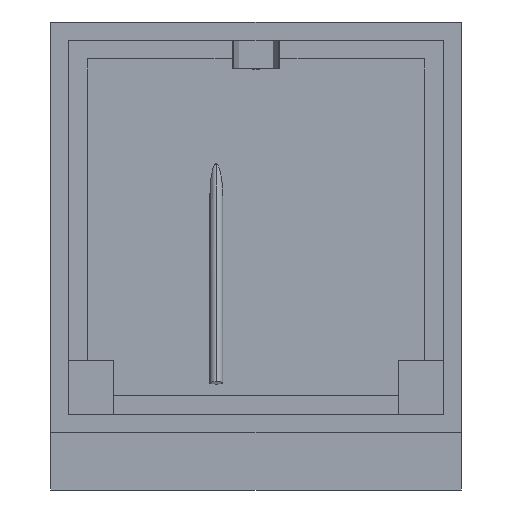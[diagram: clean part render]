
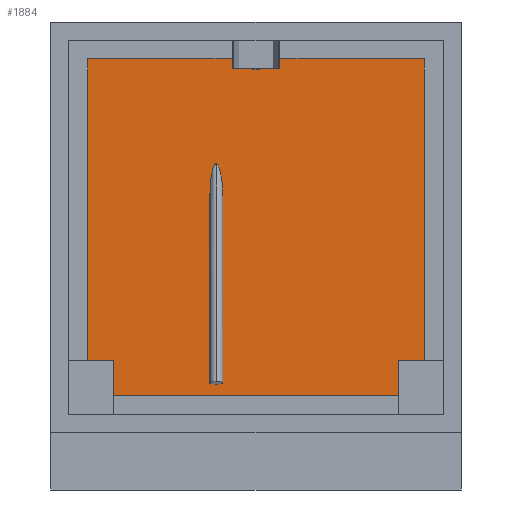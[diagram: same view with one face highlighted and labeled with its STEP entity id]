
A CAD part, front view. The second image highlights one B-rep face of the part: STEP entity #1884.
In plain terms, the highlighted planar face has unit normal (0, -1, 0).
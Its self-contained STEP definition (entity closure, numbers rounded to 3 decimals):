
#304=DIRECTION('',(0.,0.,-1.));
#305=VECTOR('',#304,75.);
#306=CARTESIAN_POINT('',(-305.,-106.,-285.));
#307=LINE('',#306,#305);
#380=DIRECTION('',(-1.,0.,0.));
#381=VECTOR('',#380,55.);
#382=CARTESIAN_POINT('',(-305.,-106.,-285.));
#383=LINE('',#382,#381);
#400=CARTESIAN_POINT('',(0.,-106.,365.));
#401=DIRECTION('',(0.,1.,0.));
#402=DIRECTION('',(0.984,0.,-0.179));
#403=AXIS2_PLACEMENT_3D('',#400,#401,#402);
#405=DIRECTION('',(-1.,0.,0.));
#406=VECTOR('',#405,332.45);
#407=CARTESIAN_POINT('',(360.,-106.,360.));
#408=LINE('',#407,#406);
#409=DIRECTION('',(0.,0.,1.));
#410=VECTOR('',#409,645.);
#411=CARTESIAN_POINT('',(360.,-106.,-285.));
#412=LINE('',#411,#410);
#413=DIRECTION('',(1.,0.,0.));
#414=VECTOR('',#413,610.);
#415=CARTESIAN_POINT('',(-305.,-106.,-360.));
#416=LINE('',#415,#414);
#417=DIRECTION('',(0.,0.,-1.));
#418=VECTOR('',#417,645.);
#419=CARTESIAN_POINT('',(-360.,-106.,360.));
#420=LINE('',#419,#418);
#421=DIRECTION('',(-1.,0.,0.));
#422=VECTOR('',#421,332.45);
#423=CARTESIAN_POINT('',(-27.55,-106.,360.));
#424=LINE('',#423,#422);
#425=CARTESIAN_POINT('',(-85.,-106.,135.724));
#426=CARTESIAN_POINT('',(-84.175,-106.,135.724));
#427=CARTESIAN_POINT('',(-82.463,-106.,134.942));
#428=CARTESIAN_POINT('',(-79.831,-106.,130.979));
#429=CARTESIAN_POINT('',(-77.294,-106.,124.022));
#430=CARTESIAN_POINT('',(-75.029,-106.,114.229));
#431=CARTESIAN_POINT('',(-73.5,-106.,104.161));
#432=CARTESIAN_POINT('',(-72.541,-106.,95.379));
#433=CARTESIAN_POINT('',(-71.96,-106.,88.548));
#434=CARTESIAN_POINT('',(-71.518,-106.,81.588));
#435=CARTESIAN_POINT('',(-71.263,-106.,75.774));
#436=CARTESIAN_POINT('',(-71.124,-106.,71.164));
#437=CARTESIAN_POINT('',(-71.052,-106.,67.738));
#438=CARTESIAN_POINT('',(-71.016,-106.,64.919));
#439=CARTESIAN_POINT('',(-71.002,-106.,62.689));
#440=CARTESIAN_POINT('',(-70.999,-106.,61.034));
#441=CARTESIAN_POINT('',(-71.002,-106.,59.379));
#442=CARTESIAN_POINT('',(-71.016,-106.,57.148));
#443=CARTESIAN_POINT('',(-71.052,-106.,54.33));
#444=CARTESIAN_POINT('',(-71.124,-106.,50.904));
#445=CARTESIAN_POINT('',(-71.263,-106.,46.294));
#446=CARTESIAN_POINT('',(-71.518,-106.,40.479));
#447=CARTESIAN_POINT('',(-71.96,-106.,33.519));
#448=CARTESIAN_POINT('',(-72.541,-106.,26.688));
#449=CARTESIAN_POINT('',(-73.5,-106.,17.907));
#450=CARTESIAN_POINT('',(-75.029,-106.,7.838));
#451=CARTESIAN_POINT('',(-77.294,-106.,-1.954));
#452=CARTESIAN_POINT('',(-79.831,-106.,-8.911));
#453=CARTESIAN_POINT('',(-82.463,-106.,-12.875));
#454=CARTESIAN_POINT('',(-84.175,-106.,-13.656));
#455=CARTESIAN_POINT('',(-85.,-106.,-13.656));
#457=CARTESIAN_POINT('',(-85.,-106.,-13.656));
#458=CARTESIAN_POINT('',(-85.825,-106.,-13.656));
#459=CARTESIAN_POINT('',(-87.537,-106.,-12.875));
#460=CARTESIAN_POINT('',(-90.169,-106.,-8.911));
#461=CARTESIAN_POINT('',(-92.706,-106.,-1.954));
#462=CARTESIAN_POINT('',(-94.971,-106.,7.838));
#463=CARTESIAN_POINT('',(-96.5,-106.,17.907));
#464=CARTESIAN_POINT('',(-97.459,-106.,26.688));
#465=CARTESIAN_POINT('',(-98.04,-106.,33.519));
#466=CARTESIAN_POINT('',(-98.482,-106.,40.479));
#467=CARTESIAN_POINT('',(-98.737,-106.,46.294));
#468=CARTESIAN_POINT('',(-98.876,-106.,50.904));
#469=CARTESIAN_POINT('',(-98.948,-106.,54.33));
#470=CARTESIAN_POINT('',(-98.984,-106.,57.148));
#471=CARTESIAN_POINT('',(-98.998,-106.,59.379));
#472=CARTESIAN_POINT('',(-99.001,-106.,61.034));
#473=CARTESIAN_POINT('',(-98.998,-106.,62.689));
#474=CARTESIAN_POINT('',(-98.984,-106.,64.919));
#475=CARTESIAN_POINT('',(-98.948,-106.,67.738));
#476=CARTESIAN_POINT('',(-98.876,-106.,71.164));
#477=CARTESIAN_POINT('',(-98.737,-106.,75.774));
#478=CARTESIAN_POINT('',(-98.482,-106.,81.588));
#479=CARTESIAN_POINT('',(-98.04,-106.,88.548));
#480=CARTESIAN_POINT('',(-97.459,-106.,95.379));
#481=CARTESIAN_POINT('',(-96.5,-106.,104.161));
#482=CARTESIAN_POINT('',(-94.971,-106.,114.229));
#483=CARTESIAN_POINT('',(-92.706,-106.,124.022));
#484=CARTESIAN_POINT('',(-90.169,-106.,130.979));
#485=CARTESIAN_POINT('',(-87.537,-106.,134.942));
#486=CARTESIAN_POINT('',(-85.825,-106.,135.724));
#487=CARTESIAN_POINT('',(-85.,-106.,135.724));
#509=DIRECTION('',(1.,0.,0.));
#510=VECTOR('',#509,55.);
#511=CARTESIAN_POINT('',(305.,-106.,-285.));
#512=LINE('',#511,#510);
#774=DIRECTION('',(0.,0.,-1.));
#775=VECTOR('',#774,75.);
#776=CARTESIAN_POINT('',(305.,-106.,-285.));
#777=LINE('',#776,#775);
#1267=CARTESIAN_POINT('',(27.55,-106.,360.));
#1268=CARTESIAN_POINT('',(-27.55,-106.,360.));
#1269=VERTEX_POINT('',#1267);
#1270=VERTEX_POINT('',#1268);
#1349=CARTESIAN_POINT('',(-85.,-106.,135.724));
#1350=VERTEX_POINT('',#1349);
#1351=CARTESIAN_POINT('',(-85.,-106.,-13.656));
#1352=VERTEX_POINT('',#1351);
#1361=CARTESIAN_POINT('',(-360.,-106.,360.));
#1362=CARTESIAN_POINT('',(-360.,-106.,-285.));
#1363=VERTEX_POINT('',#1361);
#1364=VERTEX_POINT('',#1362);
#1365=CARTESIAN_POINT('',(-305.,-106.,-360.));
#1366=CARTESIAN_POINT('',(305.,-106.,-360.));
#1367=VERTEX_POINT('',#1365);
#1368=VERTEX_POINT('',#1366);
#1369=CARTESIAN_POINT('',(360.,-106.,-285.));
#1370=CARTESIAN_POINT('',(360.,-106.,360.));
#1371=VERTEX_POINT('',#1369);
#1372=VERTEX_POINT('',#1370);
#1389=CARTESIAN_POINT('',(-305.,-106.,-285.));
#1390=VERTEX_POINT('',#1389);
#1391=CARTESIAN_POINT('',(305.,-106.,-285.));
#1392=VERTEX_POINT('',#1391);
#1854=CARTESIAN_POINT('',(0.,-106.,0.));
#1855=DIRECTION('',(0.,-1.,0.));
#1856=DIRECTION('',(1.,0.,0.));
#1857=AXIS2_PLACEMENT_3D('',#1854,#1855,#1856);
#1858=PLANE('',#1857);
#1860=ORIENTED_EDGE('',*,*,#1859,.F.);
#1862=ORIENTED_EDGE('',*,*,#1861,.F.);
#1864=ORIENTED_EDGE('',*,*,#1863,.F.);
#1866=ORIENTED_EDGE('',*,*,#1865,.F.);
#1868=ORIENTED_EDGE('',*,*,#1867,.T.);
#1870=ORIENTED_EDGE('',*,*,#1869,.F.);
#1871=ORIENTED_EDGE('',*,*,#1681,.F.);
#1872=ORIENTED_EDGE('',*,*,#1803,.T.);
#1873=ORIENTED_EDGE('',*,*,#1845,.F.);
#1875=ORIENTED_EDGE('',*,*,#1874,.F.);
#1876=EDGE_LOOP('',(#1860,#1862,#1864,#1866,#1868,#1870,#1871,#1872,#1873,
#1875));
#1877=FACE_OUTER_BOUND('',#1876,.F.);
#1879=ORIENTED_EDGE('',*,*,#1878,.F.);
#1881=ORIENTED_EDGE('',*,*,#1880,.F.);
#1882=EDGE_LOOP('',(#1879,#1881));
#1883=FACE_BOUND('',#1882,.F.);
#404=CIRCLE('',#403,28.);
#456=B_SPLINE_CURVE_WITH_KNOTS('',3,(#425,#426,#427,#428,#429,#430,#431,#432,
#433,#434,#435,#436,#437,#438,#439,#440,#441,#442,#443,#444,#445,#446,#447,#448,
#449,#450,#451,#452,#453,#454,#455),.UNSPECIFIED.,.F.,.F.,(4,1,1,1,1,1,1,1,1,1,
1,1,1,1,1,1,1,1,1,1,1,1,1,1,1,1,1,1,4),(0.,0.063,0.125,0.188,0.25,
0.313,0.344,0.375,0.406,0.438,0.453,0.469,0.484,
0.492,0.5,0.508,0.516,0.531,0.547,0.563,
0.594,0.625,0.656,0.688,0.75,0.813,0.875,0.938,1.),
.UNSPECIFIED.);
#488=B_SPLINE_CURVE_WITH_KNOTS('',3,(#457,#458,#459,#460,#461,#462,#463,#464,
#465,#466,#467,#468,#469,#470,#471,#472,#473,#474,#475,#476,#477,#478,#479,#480,
#481,#482,#483,#484,#485,#486,#487),.UNSPECIFIED.,.F.,.F.,(4,1,1,1,1,1,1,1,1,1,
1,1,1,1,1,1,1,1,1,1,1,1,1,1,1,1,1,1,4),(0.,0.063,0.125,0.188,0.25,
0.313,0.344,0.375,0.406,0.438,0.453,0.469,0.484,
0.492,0.5,0.508,0.516,0.531,0.547,0.563,
0.594,0.625,0.656,0.688,0.75,0.813,0.875,0.938,1.),
.UNSPECIFIED.);
#1681=EDGE_CURVE('',#1390,#1367,#307,.T.);
#1803=EDGE_CURVE('',#1390,#1364,#383,.T.);
#1845=EDGE_CURVE('',#1363,#1364,#420,.T.);
#1859=EDGE_CURVE('',#1269,#1270,#404,.T.);
#1861=EDGE_CURVE('',#1372,#1269,#408,.T.);
#1863=EDGE_CURVE('',#1371,#1372,#412,.T.);
#1865=EDGE_CURVE('',#1392,#1371,#512,.T.);
#1867=EDGE_CURVE('',#1392,#1368,#777,.T.);
#1869=EDGE_CURVE('',#1367,#1368,#416,.T.);
#1874=EDGE_CURVE('',#1270,#1363,#424,.T.);
#1878=EDGE_CURVE('',#1350,#1352,#456,.T.);
#1880=EDGE_CURVE('',#1352,#1350,#488,.T.);
#1884=ADVANCED_FACE('',(#1877,#1883),#1858,.T.);
